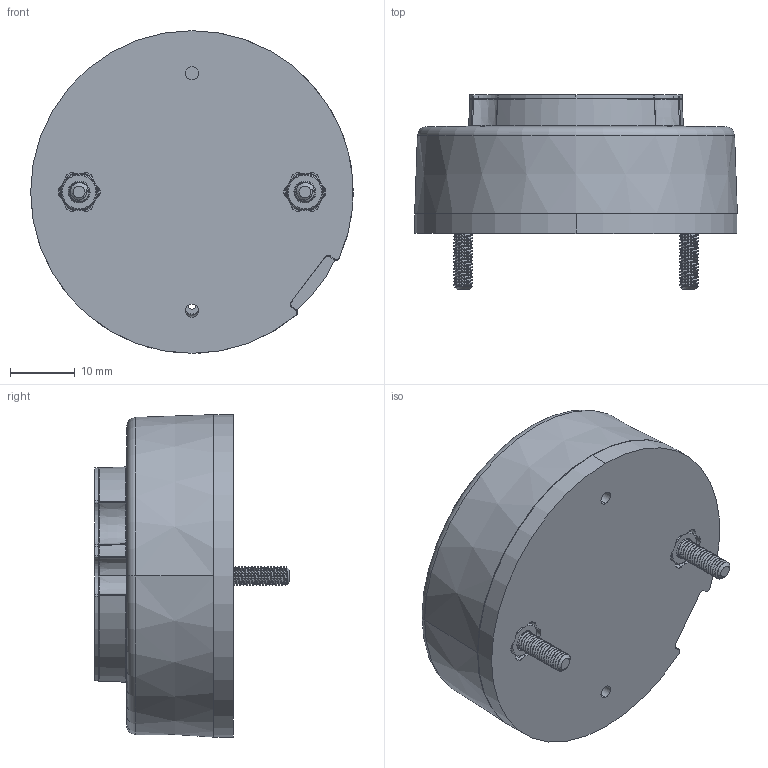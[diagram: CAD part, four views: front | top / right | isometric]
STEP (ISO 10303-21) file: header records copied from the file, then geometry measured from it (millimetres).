
FILE_DESCRIPTION (( 'STEP AP203' ), '1' );
FILE_NAME ('CTM1 19 TWISTLOCK PROFILE.STEP', '2014-06-10T21:58:24', ( '' ), ( '' ), 'SwSTEP 2.0', 'SolidWorks 2012', '' );
FILE_SCHEMA (( 'CONFIG_CONTROL_DESIGN' ));
Length unit declared in the file: inch
Products named in the file (1): CTM1 19 TWISTLOCK PROFILE
Bounding box: 50 x 30.09 x 50 mm (x, y, z)
Volume: 13868.9 mm3; surface area: 18339.9 mm2
Topology: 14 solids, 14 shells, 2040 faces, 5430 edges, 3419 vertices
Faces by surface type: plane 873, cylinder 663, cone 282, torus 140, bspline 72, sphere 10
Entity records: 74545 total; most frequent: CARTESIAN_POINT 26792, ORIENTED_EDGE 10816, DIRECTION 9059, EDGE_CURVE 5408, VERTEX_POINT 3419, VECTOR 3025, LINE 3025, AXIS2_PLACEMENT_3D 3017
